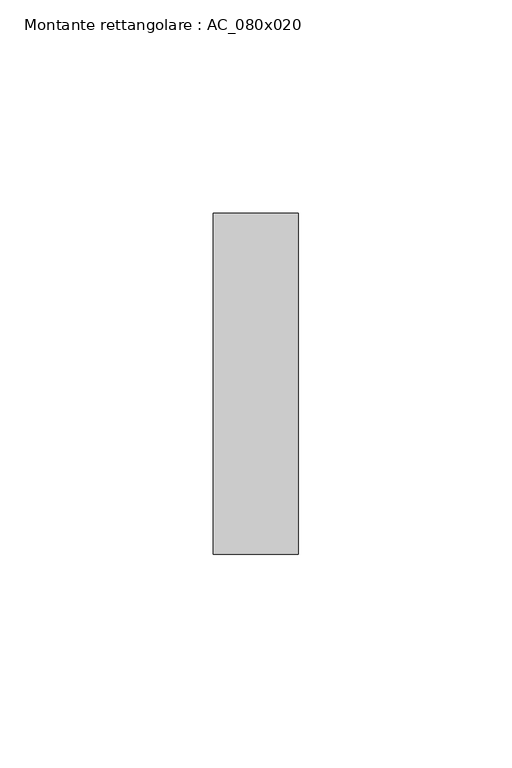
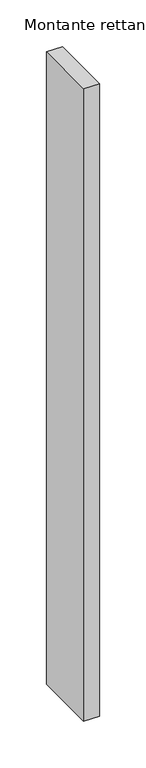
"""IFC4 building model written with IfcOpenShell, lengths in millimetres: member geometry, Montante rettangolare : AC_080x020."""

from ifc_helpers import new_model, si_unit, frame, origin, place, context, project, spatial, polyline, outline, extrude, source, transform, mapped, element, save


def montante_rettangolare_ac_080x020_a7b9e2be(model_context):
    return source(origin(), model_context, "Body", "SweptSolid", [
        extrude(outline(polyline([(0.0, 40.0), (0.0, -40.0), (-20.0, -40.0), (-20.0, 40.0), (0.0, 40.0)])), frame((0.0, 0.0, -830.0), z_axis=(0.0, 0.0, 1.0), x_axis=(1.0, 0.0, 0.0)), (0.0, 0.0, 1.0), 830.0),
    ])


if __name__ == "__main__":
    model = new_model("IFC4")
    model_context = context("Model", 3, world=origin())
    ifc_project = project(units=[si_unit("LENGTHUNIT", "METRE", prefix="MILLI")], contexts=[model_context])
    site = spatial("IfcSite", under=ifc_project)
    building = spatial("IfcBuilding", under=site)
    placement = place(None, origin())
    montante_rettangolare_ac_080x020_shape = montante_rettangolare_ac_080x020_a7b9e2be(model_context)
    element("IfcMember", 1, ObjectType="Montante rettangolare : AC_080x020", at=placement, inside=building, context=model_context, shape_type="MappedRepresentation", body=[
        mapped(montante_rettangolare_ac_080x020_shape, transform((0.0, 0.0, 0.0), x_axis=(1.0, 0.0, 0.0), y_axis=(0.0, 1.0, 0.0), z_axis=(0.0, 0.0, 1.0))),
    ])
    save(model, "model.ifc")
